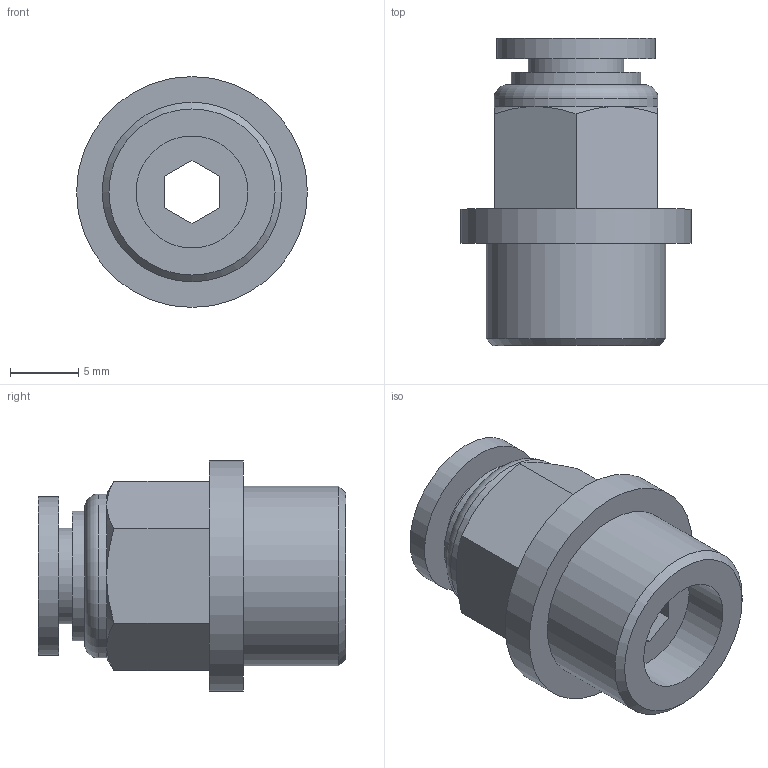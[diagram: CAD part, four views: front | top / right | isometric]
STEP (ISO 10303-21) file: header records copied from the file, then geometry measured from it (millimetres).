
FILE_DESCRIPTION((''),'2;1');
FILE_NAME('S:\UTecnico\ArchivioUT\Speciali Clienti\Speciali KONFIT\Plastica\RP\RP 51\RP511406.stp','2012-05-17T15:11:01',('UT5'),(''),'Autodesk Inventor 2012','Autodesk Inventor 2012','');
FILE_SCHEMA(('AUTOMOTIVE_DESIGN { 1 0 10303 214 1 1 1 1 }'));
Length unit declared in the file: millimetre
Products named in the file (1): RP511406
Bounding box: 16.9 x 22.5 x 16.9 mm (x, y, z)
Volume: 2285.7 mm3; surface area: 1864.6 mm2
Topology: 1 solids, 1 shells, 37 faces, 76 edges, 48 vertices
Faces by surface type: plane 21, cylinder 8, cone 7, torus 1
Full cylindrical faces by diameter (mm): 6 x1, 7 x1, 8.2 x1, 9.5 x1, 11.6 x1, 12 x1, 13.157 x1, 16.9 x1
Entity records: 949 total; most frequent: CARTESIAN_POINT 174, DIRECTION 152, ORIENTED_EDGE 130, EDGE_CURVE 65, AXIS2_PLACEMENT_3D 61, EDGE_LOOP 56, VERTEX_POINT 47, FACE_OUTER_BOUND 37
